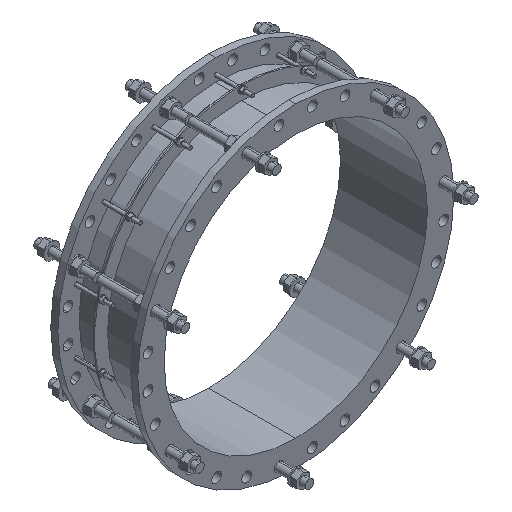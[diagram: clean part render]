
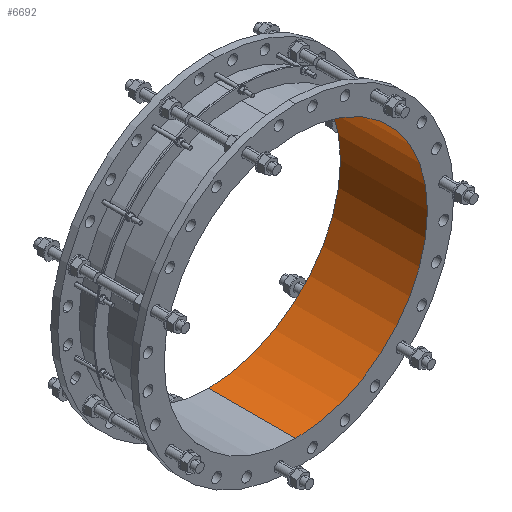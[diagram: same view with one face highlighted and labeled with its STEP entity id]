
A CAD part, isometric view. The second image highlights one B-rep face of the part: STEP entity #6692.
In plain terms, the highlighted cylindrical face has radius 464.5 mm (diameter 929 mm), a partial arc.
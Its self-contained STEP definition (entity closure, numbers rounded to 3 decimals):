
#7=DIRECTION('',(0.,-1.,0.));
#8=VECTOR('',#7,307.);
#9=CARTESIAN_POINT('',(0.,0.,-464.5));
#10=LINE('',#9,#8);
#11=CARTESIAN_POINT('',(0.,0.,0.));
#12=DIRECTION('',(0.,-1.,0.));
#13=DIRECTION('',(0.,0.,-1.));
#14=AXIS2_PLACEMENT_3D('',#11,#12,#13);
#16=DIRECTION('',(0.,-1.,0.));
#17=VECTOR('',#16,307.);
#18=CARTESIAN_POINT('',(0.,0.,464.5));
#19=LINE('',#18,#17);
#1985=CARTESIAN_POINT('',(0.,-307.,0.));
#1986=DIRECTION('',(0.,-1.,0.));
#1987=DIRECTION('',(0.,0.,-1.));
#1988=AXIS2_PLACEMENT_3D('',#1985,#1986,#1987);
#5384=CARTESIAN_POINT('',(0.,0.,-464.5));
#5385=CARTESIAN_POINT('',(0.,-307.,-464.5));
#5386=VERTEX_POINT('',#5384);
#5387=VERTEX_POINT('',#5385);
#5404=CARTESIAN_POINT('',(0.,0.,464.5));
#5405=CARTESIAN_POINT('',(0.,-307.,464.5));
#5406=VERTEX_POINT('',#5404);
#5407=VERTEX_POINT('',#5405);
#6679=CARTESIAN_POINT('',(0.,-322.35,0.));
#6680=DIRECTION('',(0.,1.,0.));
#6681=DIRECTION('',(0.,0.,-1.));
#6682=AXIS2_PLACEMENT_3D('',#6679,#6680,#6681);
#6683=CYLINDRICAL_SURFACE('',#6682,464.5);
#6684=ORIENTED_EDGE('',*,*,#6668,.F.);
#6686=ORIENTED_EDGE('',*,*,#6685,.T.);
#6687=ORIENTED_EDGE('',*,*,#6672,.T.);
#6689=ORIENTED_EDGE('',*,*,#6688,.F.);
#6690=EDGE_LOOP('',(#6684,#6686,#6687,#6689));
#6691=FACE_OUTER_BOUND('',#6690,.F.);
#6692=ADVANCED_FACE('',(#6691),#6683,.F.);
#15=CIRCLE('',#14,464.5);
#1989=CIRCLE('',#1988,464.5);
#6668=EDGE_CURVE('',#5386,#5387,#10,.T.);
#6672=EDGE_CURVE('',#5406,#5407,#19,.T.);
#6685=EDGE_CURVE('',#5386,#5406,#15,.T.);
#6688=EDGE_CURVE('',#5387,#5407,#1989,.T.);
